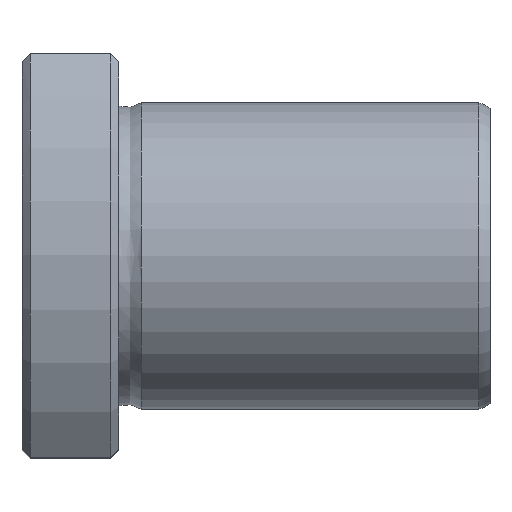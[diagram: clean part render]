
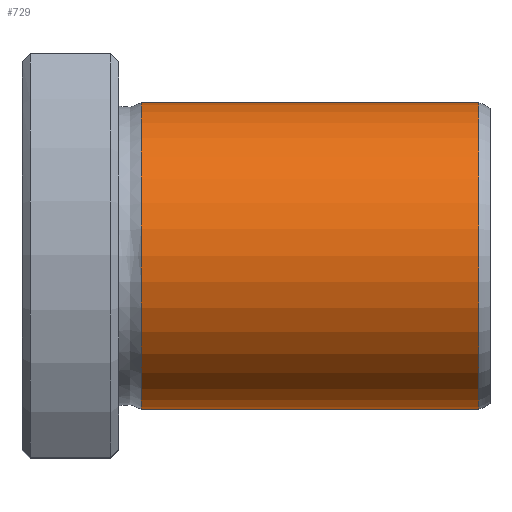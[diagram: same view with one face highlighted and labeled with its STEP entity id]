
A CAD part, top view. The second image highlights one B-rep face of the part: STEP entity #729.
In plain terms, the highlighted cylindrical face has radius 9.5 mm (diameter 19 mm), a full revolution.
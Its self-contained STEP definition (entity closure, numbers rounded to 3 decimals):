
#695=CARTESIAN_POINT('',(28.304,0.0,9.5));
#696=VERTEX_POINT('',#695);
#697=CARTESIAN_POINT('',(28.304,0.0,0.0));
#698=DIRECTION('',(-1.0,0.0,0.0));
#699=DIRECTION('',(0.0,0.0,1.0));
#700=AXIS2_PLACEMENT_3D('',#697,#698,#699);
#701=CIRCLE('',#700,9.5);
#702=EDGE_CURVE('',#696,#696,#701,.T.);
#710=CARTESIAN_POINT('',(17.852,0.0,0.0));
#711=DIRECTION('',(-1.0,0.0,0.0));
#712=DIRECTION('',(0.0,0.0,1.0));
#713=AXIS2_PLACEMENT_3D('',#710,#711,#712);
#714=CYLINDRICAL_SURFACE('',#713,9.5);
#715=CARTESIAN_POINT('',(7.4,0.0,9.5));
#716=VERTEX_POINT('',#715);
#717=CARTESIAN_POINT('',(7.4,0.0,0.0));
#718=DIRECTION('',(-1.0,0.0,0.0));
#719=DIRECTION('',(0.0,0.0,1.0));
#720=AXIS2_PLACEMENT_3D('',#717,#718,#719);
#721=CIRCLE('',#720,9.5);
#722=EDGE_CURVE('',#716,#716,#721,.T.);
#723=ORIENTED_EDGE('',*,*,#722,.F.);
#724=EDGE_LOOP('',(#723));
#725=FACE_OUTER_BOUND('',#724,.T.);
#726=ORIENTED_EDGE('',*,*,#702,.T.);
#727=EDGE_LOOP('',(#726));
#728=FACE_BOUND('',#727,.T.);
#729=ADVANCED_FACE('',(#725,#728),#714,.T.);
